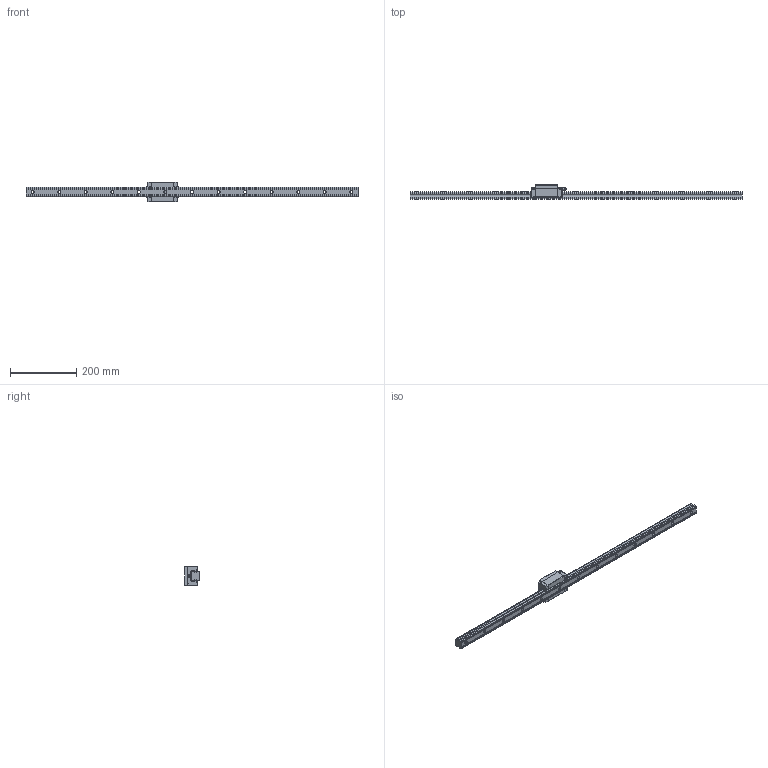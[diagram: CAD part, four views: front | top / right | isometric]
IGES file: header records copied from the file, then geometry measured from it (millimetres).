
Start section: SolidWorks IGES file using analytic representation for surfaces
Global section: file name: C:\Users\tsuch\OneDrive\デスクトップ\EG30関連修正(3D)\EGH30.IGS; native system: SolidWorks 2019; preprocessor: SolidWorks 2019; author: tsuch; date: 210705.155118; units: millimetre
Bounding box: 1000 x 45 x 60 mm (x, y, z)
Surface area: 152477.8 mm2 (no closed solid volume)
Topology: 0 solids, 0 shells, 541 faces, 6187 edges, 6179 vertices
Faces by surface type: bspline 345, revolution 196
